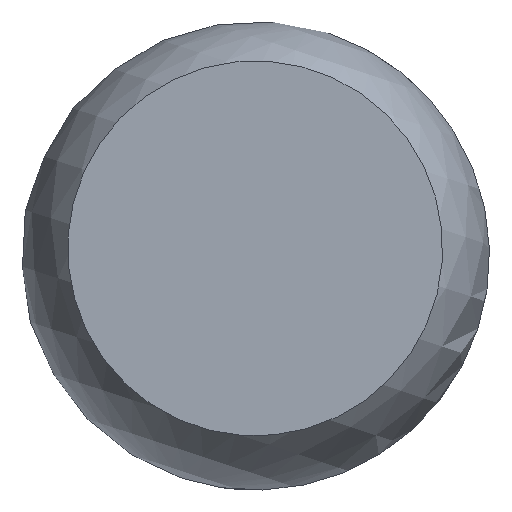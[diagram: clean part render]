
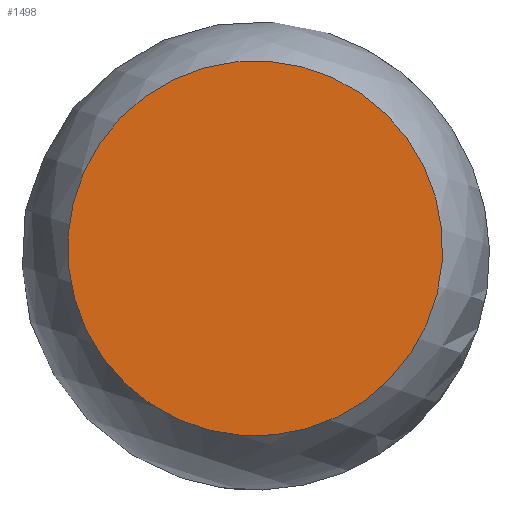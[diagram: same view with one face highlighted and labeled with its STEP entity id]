
A CAD part, top view. The second image highlights one B-rep face of the part: STEP entity #1498.
In plain terms, the highlighted planar face has unit normal (0, 0, 1).
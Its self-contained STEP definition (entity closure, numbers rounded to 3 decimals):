
#303=FACE_OUTER_BOUND('',#421,.T.);
#421=EDGE_LOOP('',(#1027));
#556=CIRCLE('',#1652,60.);
#678=VERTEX_POINT('',#2452);
#814=EDGE_CURVE('',#678,#678,#556,.T.);
#1027=ORIENTED_EDGE('',*,*,#814,.T.);
#1453=PLANE('',#1651);
#1498=ADVANCED_FACE('',(#303),#1453,.T.);
#1651=AXIS2_PLACEMENT_3D('',#2451,#1893,#1894);
#1652=AXIS2_PLACEMENT_3D('',#2453,#1895,#1896);
#1893=DIRECTION('center_axis',(0.,0.,
1.));
#1894=DIRECTION('ref_axis',(0.274,-0.962,0.));
#1895=DIRECTION('center_axis',(0.,0.,
1.));
#1896=DIRECTION('ref_axis',(0.274,-0.962,0.));
#2451=CARTESIAN_POINT('Origin',(0.,0.,
1424.59));
#2452=CARTESIAN_POINT('',(57.705,16.434,1424.59));
#2453=CARTESIAN_POINT('Origin',(0.,0.,
1424.59));
